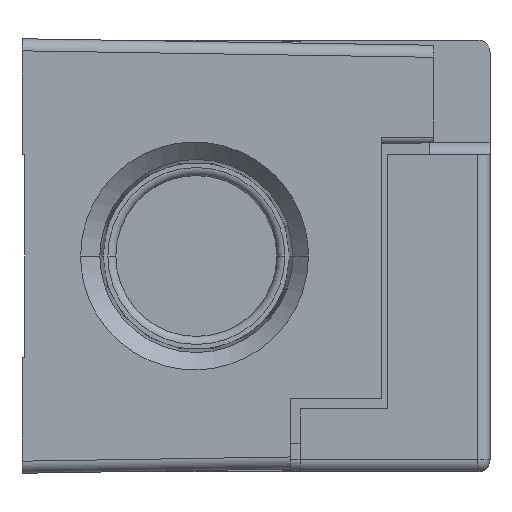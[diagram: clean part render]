
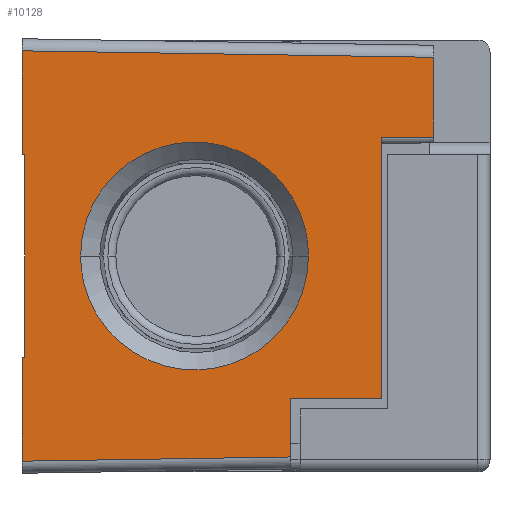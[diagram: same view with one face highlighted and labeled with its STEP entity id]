
A CAD part, front view. The second image highlights one B-rep face of the part: STEP entity #10128.
In plain terms, the highlighted planar face has unit normal (0.016, -1, 0).
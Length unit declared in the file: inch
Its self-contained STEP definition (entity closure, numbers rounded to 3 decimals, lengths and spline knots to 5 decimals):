
#2346=CARTESIAN_POINT('',(0.161,-3.18829,-0.7493));
#2356=DIRECTION('',(0.,0.,1.));
#2357=VECTOR('',#2356,0.2193);
#2358=CARTESIAN_POINT('',(0.161,-3.18829,-0.7493));
#2359=LINE('',#2358,#2357);
#2834=DIRECTION('',(0.,0.,1.));
#2835=VECTOR('',#2834,0.973);
#2836=CARTESIAN_POINT('',(0.501,-3.18295,-0.53));
#2837=LINE('',#2836,#2835);
#2842=DIRECTION('',(1.,0.016,0.));
#2843=VECTOR('',#2842,0.34004);
#2844=CARTESIAN_POINT('',(0.161,-3.18829,-0.53));
#2845=LINE('',#2844,#2843);
#2846=DIRECTION('',(-1.,-0.016,0.016));
#2847=VECTOR('',#2846,1.53538);
#2848=CARTESIAN_POINT('',(0.696,-3.17989,0.74089));
#2849=LINE('',#2848,#2847);
#2850=DIRECTION('',(1.,0.016,0.016));
#2851=VECTOR('',#2850,1.00025);
#2852=CARTESIAN_POINT('',(-0.839,-3.204,-0.76501));
#2853=LINE('',#2852,#2851);
#2854=DIRECTION('',(1.,0.016,0.));
#2855=VECTOR('',#2854,0.01);
#2856=CARTESIAN_POINT('',(-0.839,-3.204,-0.378));
#2857=LINE('',#2856,#2855);
#2858=DIRECTION('',(0.,0.,1.));
#2859=VECTOR('',#2858,0.756);
#2860=CARTESIAN_POINT('',(-0.829,-3.20384,-0.378));
#2861=LINE('',#2860,#2859);
#2862=DIRECTION('',(1.,0.016,0.));
#2863=VECTOR('',#2862,0.01);
#2864=CARTESIAN_POINT('',(-0.839,-3.204,0.378));
#2865=LINE('',#2864,#2863);
#2866=CARTESIAN_POINT('',(0.22922,-3.18722,0.));
#2867=CARTESIAN_POINT('',(0.22922,-3.18722,
-0.02503));
#2868=CARTESIAN_POINT('',(0.22477,-3.18729,
-0.07698));
#2869=CARTESIAN_POINT('',(0.20223,-3.18764,
-0.15686));
#2870=CARTESIAN_POINT('',(0.16265,-3.18826,
-0.23386));
#2871=CARTESIAN_POINT('',(0.10694,-3.18914,
-0.30258));
#2872=CARTESIAN_POINT('',(0.03821,-3.19022,
-0.35828));
#2873=CARTESIAN_POINT('',(-0.02595,-3.19123,
-0.39125));
#2874=CARTESIAN_POINT('',(-0.07874,-3.19206,
-0.40913));
#2875=CARTESIAN_POINT('',(-0.11844,-3.19268,
-0.41841));
#2876=CARTESIAN_POINT('',(-0.15111,-3.19319,
-0.42285));
#2877=CARTESIAN_POINT('',(-0.1768,-3.1936,
-0.42456));
#2878=CARTESIAN_POINT('',(-0.19567,-3.19389,
-0.42498));
#2879=CARTESIAN_POINT('',(-0.21455,-3.19419,
-0.42456));
#2880=CARTESIAN_POINT('',(-0.24024,-3.19459,
-0.42285));
#2881=CARTESIAN_POINT('',(-0.27291,-3.19511,
-0.41841));
#2882=CARTESIAN_POINT('',(-0.31261,-3.19573,
-0.40913));
#2883=CARTESIAN_POINT('',(-0.36539,-3.19656,
-0.39125));
#2884=CARTESIAN_POINT('',(-0.42956,-3.19757,
-0.35828));
#2885=CARTESIAN_POINT('',(-0.49829,-3.19865,
-0.30258));
#2886=CARTESIAN_POINT('',(-0.554,-3.19952,
-0.23386));
#2887=CARTESIAN_POINT('',(-0.59357,-3.20014,
-0.15686));
#2888=CARTESIAN_POINT('',(-0.61612,-3.2005,
-0.07698));
#2889=CARTESIAN_POINT('',(-0.62057,-3.20057,
-0.02503));
#2890=CARTESIAN_POINT('',(-0.62057,-3.20057,0.));
#2892=CARTESIAN_POINT('',(-0.62057,-3.20057,0.));
#2893=CARTESIAN_POINT('',(-0.62057,-3.20057,
0.02503));
#2894=CARTESIAN_POINT('',(-0.61612,-3.2005,
0.07698));
#2895=CARTESIAN_POINT('',(-0.59357,-3.20014,
0.15686));
#2896=CARTESIAN_POINT('',(-0.554,-3.19952,
0.23386));
#2897=CARTESIAN_POINT('',(-0.49829,-3.19865,
0.30258));
#2898=CARTESIAN_POINT('',(-0.42956,-3.19757,
0.35828));
#2899=CARTESIAN_POINT('',(-0.36539,-3.19656,
0.39125));
#2900=CARTESIAN_POINT('',(-0.31261,-3.19573,
0.40913));
#2901=CARTESIAN_POINT('',(-0.27291,-3.19511,
0.41841));
#2902=CARTESIAN_POINT('',(-0.24024,-3.19459,
0.42285));
#2903=CARTESIAN_POINT('',(-0.21455,-3.19419,
0.42456));
#2904=CARTESIAN_POINT('',(-0.19567,-3.19389,
0.42498));
#2905=CARTESIAN_POINT('',(-0.1768,-3.1936,
0.42456));
#2906=CARTESIAN_POINT('',(-0.15111,-3.19319,
0.42285));
#2907=CARTESIAN_POINT('',(-0.11844,-3.19268,
0.41841));
#2908=CARTESIAN_POINT('',(-0.07874,-3.19206,
0.40913));
#2909=CARTESIAN_POINT('',(-0.02595,-3.19123,
0.39125));
#2910=CARTESIAN_POINT('',(0.03821,-3.19022,
0.35828));
#2911=CARTESIAN_POINT('',(0.10694,-3.18914,
0.30258));
#2912=CARTESIAN_POINT('',(0.16265,-3.18826,
0.23386));
#2913=CARTESIAN_POINT('',(0.20223,-3.18764,
0.15686));
#2914=CARTESIAN_POINT('',(0.22477,-3.18729,
0.07698));
#2915=CARTESIAN_POINT('',(0.22922,-3.18722,
0.02503));
#2916=CARTESIAN_POINT('',(0.22922,-3.18722,0.));
#2918=CARTESIAN_POINT('',(-0.839,-3.204,0.76501));
#2928=DIRECTION('',(0.,0.,1.));
#2929=VECTOR('',#2928,0.38701);
#2930=CARTESIAN_POINT('',(-0.839,-3.204,0.378));
#2931=LINE('',#2930,#2929);
#3074=CARTESIAN_POINT('',(0.696,-3.17989,0.74089));
#3103=DIRECTION('',(0.,0.,-1.));
#3104=VECTOR('',#3103,0.29789);
#3105=CARTESIAN_POINT('',(0.696,-3.17989,0.74089));
#3106=LINE('',#3105,#3104);
#3134=DIRECTION('',(1.,0.016,0.));
#3135=VECTOR('',#3134,0.19502);
#3136=CARTESIAN_POINT('',(0.501,-3.18295,0.443));
#3137=LINE('',#3136,#3135);
#3173=CARTESIAN_POINT('',(-0.839,-3.204,-0.76501));
#3192=DIRECTION('',(0.,0.,1.));
#3193=VECTOR('',#3192,0.38701);
#3194=CARTESIAN_POINT('',(-0.839,-3.204,-0.76501));
#3195=LINE('',#3194,#3193);
#5827=CARTESIAN_POINT('',(0.22922,-3.18722,0.));
#5828=VERTEX_POINT('',#5827);
#5829=CARTESIAN_POINT('',(-0.62057,-3.20057,0.));
#5830=VERTEX_POINT('',#5829);
#5832=CARTESIAN_POINT('',(0.501,-3.18295,0.443));
#5834=VERTEX_POINT('',#5832);
#5841=CARTESIAN_POINT('',(0.696,-3.17989,0.443));
#5842=VERTEX_POINT('',#5841);
#5843=CARTESIAN_POINT('',(0.501,-3.18295,-0.53));
#5844=VERTEX_POINT('',#5843);
#5851=CARTESIAN_POINT('',(0.161,-3.18829,-0.53));
#5852=VERTEX_POINT('',#5851);
#5855=VERTEX_POINT('',#2918);
#5859=VERTEX_POINT('',#3074);
#5860=VERTEX_POINT('',#2346);
#5864=VERTEX_POINT('',#3173);
#5917=CARTESIAN_POINT('',(-0.839,-3.204,-0.378));
#5918=VERTEX_POINT('',#5917);
#5919=CARTESIAN_POINT('',(-0.839,-3.204,0.378));
#5921=VERTEX_POINT('',#5919);
#5939=CARTESIAN_POINT('',(-0.829,-3.20384,-0.378));
#5940=CARTESIAN_POINT('',(-0.829,-3.20384,0.378));
#5941=VERTEX_POINT('',#5939);
#5942=VERTEX_POINT('',#5940);
#10095=CARTESIAN_POINT('',(-0.839,-3.204,-1.85443));
#10096=DIRECTION('',(0.016,-1.,0.));
#10097=DIRECTION('',(0.,0.,1.));
#10098=AXIS2_PLACEMENT_3D('',#10095,#10096,#10097);
#10099=PLANE('',#10098);
#10101=ORIENTED_EDGE('',*,*,#10100,.F.);
#10103=ORIENTED_EDGE('',*,*,#10102,.T.);
#10105=ORIENTED_EDGE('',*,*,#10104,.F.);
#10106=ORIENTED_EDGE('',*,*,#10074,.F.);
#10107=ORIENTED_EDGE('',*,*,#10089,.F.);
#10108=ORIENTED_EDGE('',*,*,#9428,.F.);
#10110=ORIENTED_EDGE('',*,*,#10109,.F.);
#10112=ORIENTED_EDGE('',*,*,#10111,.T.);
#10114=ORIENTED_EDGE('',*,*,#10113,.T.);
#10115=ORIENTED_EDGE('',*,*,#9848,.T.);
#10117=ORIENTED_EDGE('',*,*,#10116,.F.);
#10119=ORIENTED_EDGE('',*,*,#10118,.T.);
#10120=EDGE_LOOP('',(#10101,#10103,#10105,#10106,#10107,#10108,#10110,#10112,
#10114,#10115,#10117,#10119));
#10121=FACE_OUTER_BOUND('',#10120,.F.);
#10123=ORIENTED_EDGE('',*,*,#10122,.F.);
#10125=ORIENTED_EDGE('',*,*,#10124,.F.);
#10126=EDGE_LOOP('',(#10123,#10125));
#10127=FACE_BOUND('',#10126,.F.);
#10128=ADVANCED_FACE('',(#10121,#10127),#10099,.T.);
#2891=B_SPLINE_CURVE_WITH_KNOTS('',3,(#2866,#2867,#2868,#2869,#2870,#2871,#2872,
#2873,#2874,#2875,#2876,#2877,#2878,#2879,#2880,#2881,#2882,#2883,#2884,#2885,
#2886,#2887,#2888,#2889,#2890),.UNSPECIFIED.,.F.,.F.,(4,1,1,1,1,1,1,1,1,1,1,1,1,
1,1,1,1,1,1,1,1,1,4),(0.,0.0625,0.125,0.1875,0.25,0.3125,0.375,
0.40625,0.4375,0.46875,0.48438,0.5,0.51563,0.53125,0.5625,
0.59375,0.625,0.6875,0.75,0.8125,0.875,0.9375,1.),
.UNSPECIFIED.);
#2917=B_SPLINE_CURVE_WITH_KNOTS('',3,(#2892,#2893,#2894,#2895,#2896,#2897,#2898,
#2899,#2900,#2901,#2902,#2903,#2904,#2905,#2906,#2907,#2908,#2909,#2910,#2911,
#2912,#2913,#2914,#2915,#2916),.UNSPECIFIED.,.F.,.F.,(4,1,1,1,1,1,1,1,1,1,1,1,1,
1,1,1,1,1,1,1,1,1,4),(0.,0.0625,0.125,0.1875,0.25,0.3125,0.375,
0.40625,0.4375,0.46875,0.48438,0.5,0.51563,0.53125,0.5625,
0.59375,0.625,0.6875,0.75,0.8125,0.875,0.9375,1.),
.UNSPECIFIED.);
#9428=EDGE_CURVE('',#5860,#5852,#2359,.T.);
#9848=EDGE_CURVE('',#5941,#5942,#2861,.T.);
#10074=EDGE_CURVE('',#5844,#5834,#2837,.T.);
#10089=EDGE_CURVE('',#5852,#5844,#2845,.T.);
#10100=EDGE_CURVE('',#5859,#5855,#2849,.T.);
#10102=EDGE_CURVE('',#5859,#5842,#3106,.T.);
#10104=EDGE_CURVE('',#5834,#5842,#3137,.T.);
#10109=EDGE_CURVE('',#5864,#5860,#2853,.T.);
#10111=EDGE_CURVE('',#5864,#5918,#3195,.T.);
#10113=EDGE_CURVE('',#5918,#5941,#2857,.T.);
#10116=EDGE_CURVE('',#5921,#5942,#2865,.T.);
#10118=EDGE_CURVE('',#5921,#5855,#2931,.T.);
#10122=EDGE_CURVE('',#5828,#5830,#2891,.T.);
#10124=EDGE_CURVE('',#5830,#5828,#2917,.T.);
